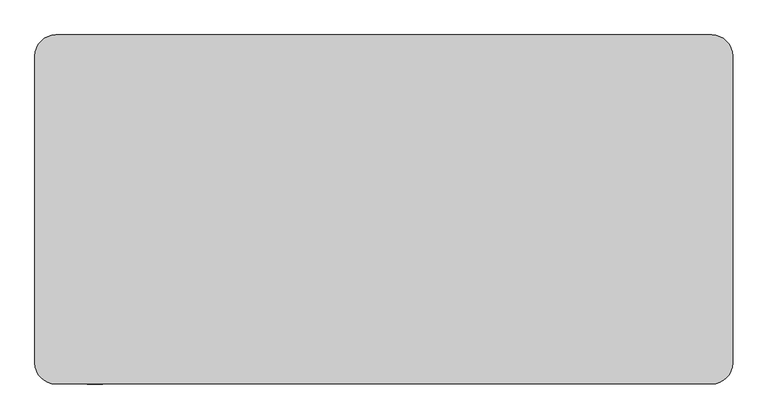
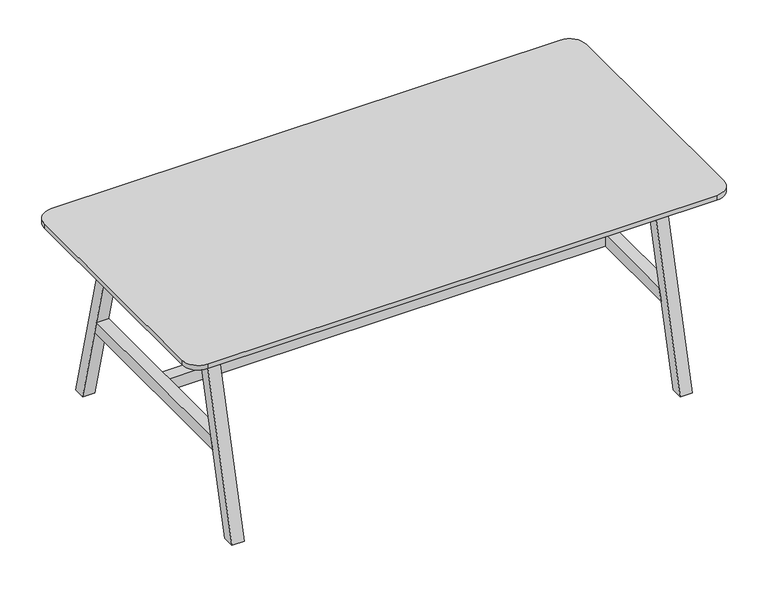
"""IFC4 building model written with IfcOpenShell, lengths in millimetres: furniture geometry, BDG_BossDesign_Tbls_AgentTables4Legs : AGE-DT-2000-1000-3D."""

from ifc_helpers import new_model, si_unit, point, frame, frame_2d, origin, place, context, project, spatial, polyline, circle_curve, trimmed, segment, composite_curve, outline, extrude, source, transform, mapped, element, save


def furniture_95165e4f(model_context):
    return source(origin(), model_context, "Body", "SweptSolid", [
        extrude(outline(polyline([(-366.3977249, 345.0), (366.3977249, 345.0), (377.9545427, 300.0), (-377.9545427, 300.0), (-366.3977249, 345.0)])), frame((805.0, 0.0, 0.0), z_axis=(1.0, 0.0, 0.0), x_axis=(0.0, 1.0, 0.0)), (0.0, 0.0, 1.0), 45.0),
        extrude(outline(polyline([(500.0, 0.0), (454.9999949, 0.0), (285.5, 660.0), (330.5000051, 660.0), (500.0, 0.0)])), frame((-850.0, 0.0, 0.0), z_axis=(1.0, 0.0, 0.0), x_axis=(0.0, 1.0, 0.0)), (0.0, 0.0, 1.0), 45.0),
        extrude(outline(polyline([(-500.0, 0.0), (-330.5000051, 660.0), (-285.5, 660.0), (-454.9999949, 0.0), (-500.0, 0.0)])), frame((-850.0, 0.0, 0.0), z_axis=(1.0, 0.0, 0.0), x_axis=(0.0, 1.0, 0.0)), (0.0, 0.0, 1.0), 45.0),
        extrude(outline(polyline([(-279.5, 722.0), (279.5, 722.0), (297.9691272, 650.0), (-297.9691272, 650.0), (-279.5, 722.0)])), frame((388.0, 0.0, 0.0), z_axis=(1.0, 0.0, 0.0), x_axis=(0.0, 1.0, 0.0)), (0.0, 0.0, 1.0), 24.0),
        extrude(outline(polyline([(-366.3977249, 345.0), (366.3977249, 345.0), (377.9545427, 300.0), (-377.9545427, 300.0), (-366.3977249, 345.0)])), frame((-850.0, 0.0, 0.0), z_axis=(1.0, 0.0, 0.0), x_axis=(0.0, 1.0, 0.0)), (0.0, 0.0, 1.0), 45.0),
        extrude(outline(polyline([(-279.5, 722.0), (279.5, 722.0), (297.9691272, 650.0), (-297.9691272, 650.0), (-279.5, 722.0)])), frame((-412.0, 0.0, 0.0), z_axis=(1.0, 0.0, 0.0), x_axis=(0.0, 1.0, 0.0)), (0.0, 0.0, 1.0), 24.0),
        extrude(outline(polyline([(-326.6006165, 634.973938), (-304.2770691, 722.0), (-279.5, 722.0), (-301.8235474, 634.973938), (-326.6006165, 634.973938)])), frame((-805.0, 0.0, 0.0), z_axis=(1.0, 0.0, 0.0), x_axis=(0.0, 1.0, 0.0)), (0.0, 0.0, 1.0), 1610.0),
        extrude(outline(polyline([(326.6006165, 634.973938), (301.8235474, 634.973938), (279.5, 722.0), (304.2770691, 722.0), (326.6006165, 634.973938)])), frame((-805.0, 0.0, 0.0), z_axis=(1.0, 0.0, 0.0), x_axis=(0.0, 1.0, 0.0)), (0.0, 0.0, 1.0), 1610.0),
        extrude(outline(polyline([(499.7999878, 0.0), (454.7999827, 0.0), (285.5, 660.0), (330.5000051, 660.0), (499.7999878, 0.0)])), frame((805.0, 0.0, 0.0), z_axis=(1.0, 0.0, 0.0), x_axis=(0.0, 1.0, 0.0)), (0.0, 0.0, 1.0), 45.0),
        extrude(outline(polyline([(-499.7999878, 0.0), (-330.5000051, 660.0), (-285.5, 660.0), (-454.7999827, 0.0), (-499.7999878, 0.0)])), frame((805.0, 0.0, 0.0), z_axis=(1.0, 0.0, 0.0), x_axis=(0.0, 1.0, 0.0)), (0.0, 0.0, 1.0), 45.0),
        extrude(outline(polyline([(805.0, 22.5000305), (805.0, -22.5000305), (-805.0, -22.5000305), (-805.0, 22.5000305), (805.0, 22.5000305)])), frame((0.0, 0.0, 300.0), z_axis=(0.0, 0.0, 1.0), x_axis=(1.0, 0.0, 0.0)), (0.0, 0.0, 1.0), 45.0),
        extrude(outline(composite_curve([segment(trimmed(circle_curve(frame_2d((940.0, 440.0)), 60.0), [point((940.0, 500.0))], [point((1000.0, 440.0))], False, "CARTESIAN"), True, "CONTINUOUS"), segment(polyline([(1000.0, 440.0), (1000.0, -440.0)]), True, "CONTINUOUS"), segment(trimmed(circle_curve(frame_2d((940.0, -440.0)), 60.0), [point((1000.0, -440.0))], [point((940.0, -500.0))], False, "CARTESIAN"), True, "CONTINUOUS"), segment(polyline([(940.0, -500.0), (-940.0, -500.0)]), True, "CONTINUOUS"), segment(trimmed(circle_curve(frame_2d((-940.0, -440.0)), 60.0), [point((-940.0, -500.0))], [point((-1000.0, -440.0))], False, "CARTESIAN"), True, "CONTINUOUS"), segment(polyline([(-1000.0, -440.0), (-1000.0, 440.0)]), True, "CONTINUOUS"), segment(trimmed(circle_curve(frame_2d((-940.0, 440.0)), 60.0), [point((-1000.0, 440.0))], [point((-940.0, 500.0))], False, "CARTESIAN"), True, "CONTINUOUS"), segment(polyline([(-940.0, 500.0), (940.0, 500.0)]), True, "CONTINUOUS")], self_intersect=False)), frame((0.0, 0.0, 722.0), z_axis=(0.0, 0.0, 1.0), x_axis=(1.0, 0.0, 0.0)), (0.0, 0.0, 1.0), 18.0),
    ])


if __name__ == "__main__":
    model = new_model("IFC4")
    model_context = context("Model", 3, world=origin())
    ifc_project = project(units=[si_unit("LENGTHUNIT", "METRE", prefix="MILLI")], contexts=[model_context])
    site = spatial("IfcSite", under=ifc_project)
    building = spatial("IfcBuilding", under=site)
    placement = place(None, origin())
    furniture_shape = furniture_95165e4f(model_context)
    element("IfcFurniture", 1, ObjectType="BDG_BossDesign_Tbls_AgentTables4Legs : AGE-DT-2000-1000-3D", at=placement, inside=building, context=model_context, shape_type="MappedRepresentation", body=[
        mapped(furniture_shape, transform((0.0, 0.0, 0.0), x_axis=(1.0, 0.0, 0.0), y_axis=(0.0, 1.0, 0.0), z_axis=(0.0, 0.0, 1.0))),
    ])
    save(model, "model.ifc")
